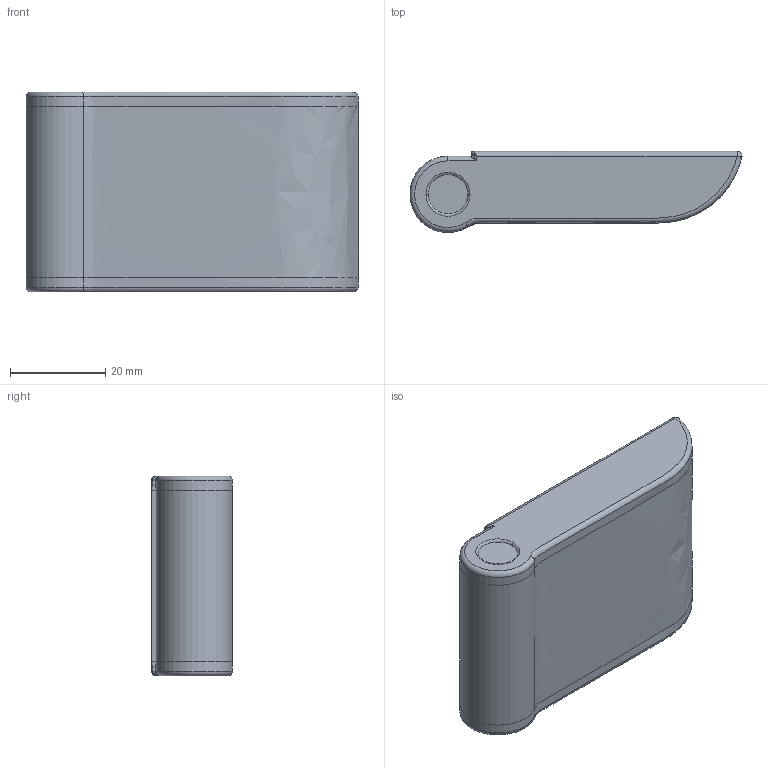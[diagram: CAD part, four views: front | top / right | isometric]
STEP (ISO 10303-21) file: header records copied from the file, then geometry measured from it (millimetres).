
FILE_DESCRIPTION (( 'STEP AP203' ), '1' );
FILE_NAME ('013.100.035.STEP', '2021-03-22T08:34:05', ( '' ), ( '' ), 'SwSTEP 2.0', 'SolidWorks 2018', '' );
FILE_SCHEMA (( 'CONFIG_CONTROL_DESIGN' ));
Length unit declared in the file: millimetre
Products named in the file (4): 013.100.035; 013.000.003B; 013.000.003C
Assembly tree (3 placements, depth 2):
  013.100.035
    013.100.035
    013.000.003C
    013.000.003B
Bounding box: 69.75 x 16.99 x 42 mm (x, y, z)
Volume: 24751.6 mm3; surface area: 19865.3 mm2
Topology: 3 solids, 3 shells, 303 faces, 774 edges, 482 vertices
Faces by surface type: plane 103, cone 94, torus 56, cylinder 33, bspline 13, sphere 4
Entity records: 10921 total; most frequent: CARTESIAN_POINT 3297, ORIENTED_EDGE 1528, DIRECTION 1514, EDGE_CURVE 764, AXIS2_PLACEMENT_3D 592, VERTEX_POINT 482, LINE 330, VECTOR 330
